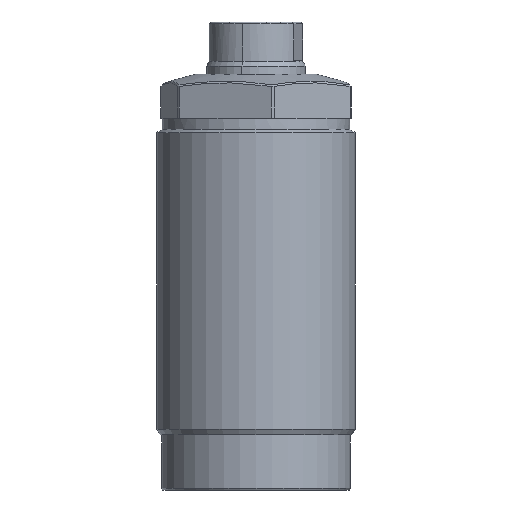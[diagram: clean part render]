
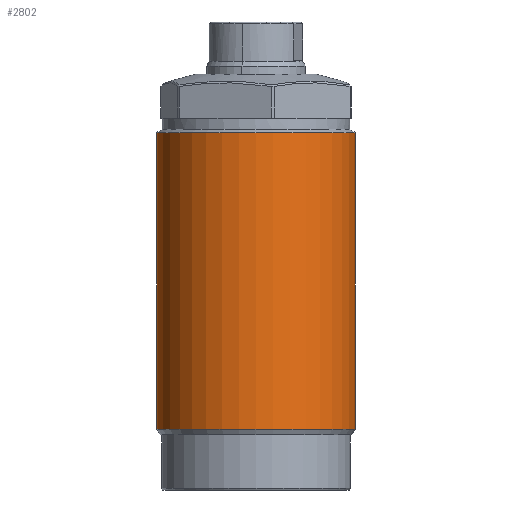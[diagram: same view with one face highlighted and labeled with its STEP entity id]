
A CAD part, front view. The second image highlights one B-rep face of the part: STEP entity #2802.
In plain terms, the highlighted cylindrical face has radius 18 mm (diameter 36 mm), a partial arc.
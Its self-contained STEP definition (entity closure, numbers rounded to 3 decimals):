
#46 = CARTESIAN_POINT ( 'NONE',  ( -18., 0., 67.5 ) ) ;
#81 = CARTESIAN_POINT ( 'NONE',  ( 18., 0., 64.923 ) ) ;
#207 = ORIENTED_EDGE ( 'NONE', *, *, #2776, .F. ) ;
#220 = EDGE_CURVE ( 'NONE', #1505, #984, #2774, .T. ) ;
#231 = DIRECTION ( 'NONE',  ( -1., 0., 0. ) ) ;
#238 = DIRECTION ( 'NONE',  ( 0., 0., -1. ) ) ;
#330 = CIRCLE ( 'NONE', #614, 18. ) ;
#336 = VERTEX_POINT ( 'NONE', #3064 ) ;
#357 = DIRECTION ( 'NONE',  ( 0., 0., -1. ) ) ;
#526 = DIRECTION ( 'NONE',  ( 0., 0., -1. ) ) ;
#601 = EDGE_CURVE ( 'NONE', #984, #336, #330, .T. ) ;
#614 = AXIS2_PLACEMENT_3D ( 'NONE', #2669, #2728, #231 ) ;
#661 = ORIENTED_EDGE ( 'NONE', *, *, #3401, .T. ) ;
#854 = CIRCLE ( 'NONE', #1927, 18. ) ;
#904 = VECTOR ( 'NONE', #238, 1000. ) ;
#930 = VECTOR ( 'NONE', #3478, 1000. ) ;
#984 = VERTEX_POINT ( 'NONE', #1323 ) ;
#1153 = EDGE_LOOP ( 'NONE', ( #207, #661, #3293, #3417 ) ) ;
#1323 = CARTESIAN_POINT ( 'NONE',  ( -18., 0., 11. ) ) ;
#1476 = DIRECTION ( 'NONE',  ( -1., 0., 0. ) ) ;
#1505 = VERTEX_POINT ( 'NONE', #2643 ) ;
#1608 = DIRECTION ( 'NONE',  ( -1., 0., 0. ) ) ;
#1749 = VERTEX_POINT ( 'NONE', #81 ) ;
#1927 = AXIS2_PLACEMENT_3D ( 'NONE', #3055, #357, #1476 ) ;
#2375 = CARTESIAN_POINT ( 'NONE',  ( 18., 0., 67.5 ) ) ;
#2620 = LINE ( 'NONE', #2375, #904 ) ;
#2643 = CARTESIAN_POINT ( 'NONE',  ( -18., 0., 64.923 ) ) ;
#2669 = CARTESIAN_POINT ( 'NONE',  ( 0., 0., 11. ) ) ;
#2728 = DIRECTION ( 'NONE',  ( 0., 0., 1. ) ) ;
#2774 = LINE ( 'NONE', #46, #930 ) ;
#2776 = EDGE_CURVE ( 'NONE', #1749, #336, #2620, .T. ) ;
#2802 = ADVANCED_FACE ( 'NONE', ( #3516 ), #2959, .T. ) ;
#2959 = CYLINDRICAL_SURFACE ( 'NONE', #3235, 18. ) ;
#3055 = CARTESIAN_POINT ( 'NONE',  ( 0., 0., 64.923 ) ) ;
#3064 = CARTESIAN_POINT ( 'NONE',  ( 18., 0., 11. ) ) ;
#3235 = AXIS2_PLACEMENT_3D ( 'NONE', #3469, #526, #1608 ) ;
#3293 = ORIENTED_EDGE ( 'NONE', *, *, #220, .T. ) ;
#3401 = EDGE_CURVE ( 'NONE', #1749, #1505, #854, .T. ) ;
#3417 = ORIENTED_EDGE ( 'NONE', *, *, #601, .T. ) ;
#3469 = CARTESIAN_POINT ( 'NONE',  ( 0., 0., 67.5 ) ) ;
#3478 = DIRECTION ( 'NONE',  ( 0., 0., -1. ) ) ;
#3516 = FACE_OUTER_BOUND ( 'NONE', #1153, .T. ) ;
